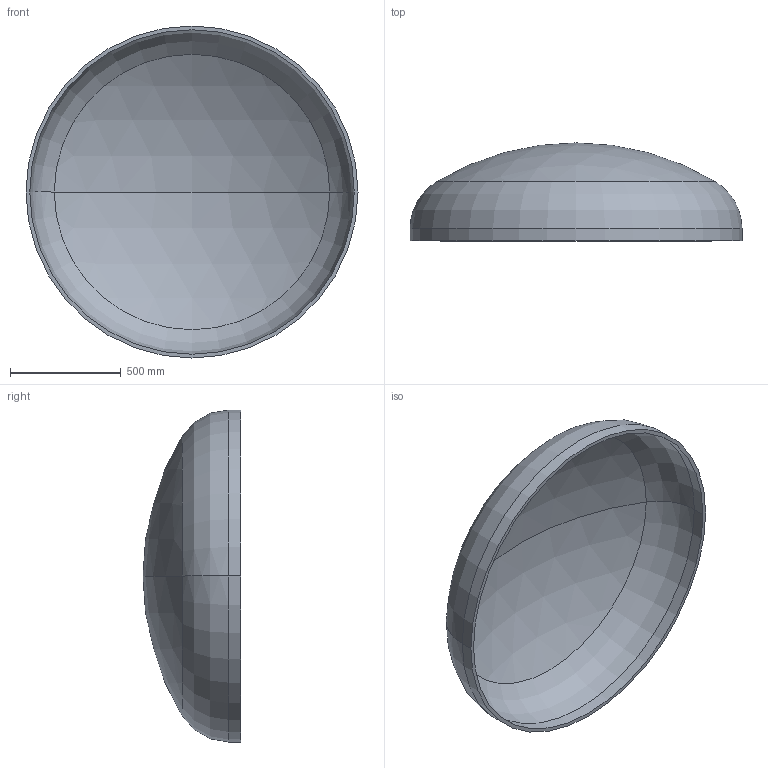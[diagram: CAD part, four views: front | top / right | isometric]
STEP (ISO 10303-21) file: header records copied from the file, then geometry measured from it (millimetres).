
FILE_DESCRIPTION (( 'STEP AP203' ), '1' );
FILE_NAME ('DIN 28013 Korbbogenform_-_Boden DIN 28013 - 1500 x 55 - I - s=17.step', '2016-07-01T10:37:39', ( '' ), ( '' ), 'SwSTEP 2.0', 'SolidWorks 2013', '' );
FILE_SCHEMA (( 'CONFIG_CONTROL_DESIGN' ));
Length unit declared in the file: millimetre
Products named in the file (1): DIN 28013 Korbbogenform_-_Boden DIN 28013 - 1500 x 55 - I - s=17
Bounding box: 1500 x 442.61 x 1500 mm (x, y, z)
Volume: 45309410 mm3; surface area: 5410324.9 mm2
Topology: 1 solids, 1 shells, 13 faces, 24 edges, 14 vertices
Faces by surface type: torus 4, cylinder 4, sphere 4, plane 1
Entity records: 407 total; most frequent: DIRECTION 72, CARTESIAN_POINT 52, ORIENTED_EDGE 48, AXIS2_PLACEMENT_3D 34, EDGE_CURVE 24, CIRCLE 20, EDGE_LOOP 14, VERTEX_POINT 14
